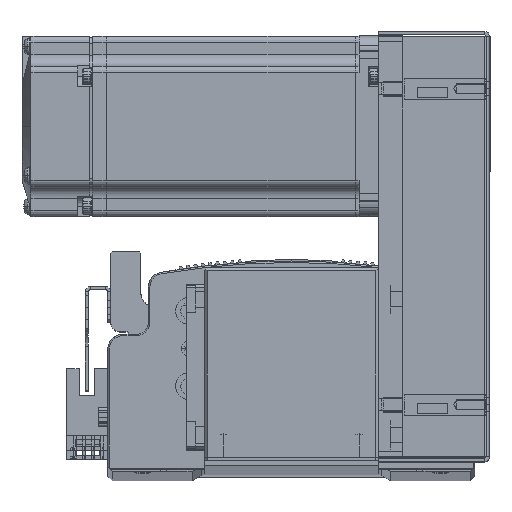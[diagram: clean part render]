
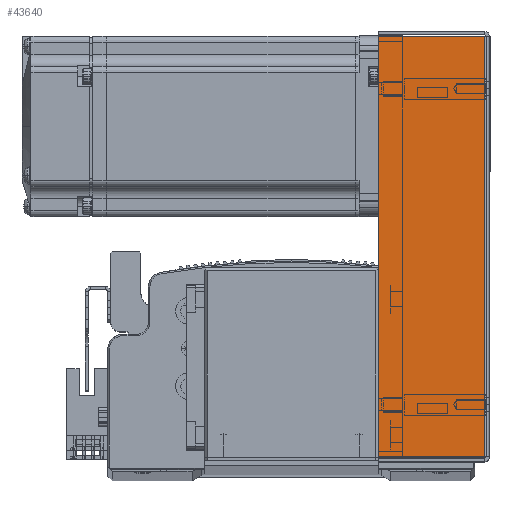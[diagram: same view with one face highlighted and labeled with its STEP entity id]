
A CAD part, top view. The second image highlights one B-rep face of the part: STEP entity #43640.
In plain terms, the highlighted planar face has unit normal (0, 0, 1) as drawn and (0, 0, -1) by its records, which use the part's own axes.
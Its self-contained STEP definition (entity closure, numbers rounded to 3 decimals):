
#2471 = CARTESIAN_POINT ( 'NONE',  ( -69.793, 0.737, -33.5 ) ) ;
#2481 = CARTESIAN_POINT ( 'NONE',  ( 69.793, 0.737, -33.5 ) ) ;
#2711 = CARTESIAN_POINT ( 'NONE',  ( 69.793, 36., -33.5 ) ) ;
#2716 = CARTESIAN_POINT ( 'NONE',  ( -69.793, 36., -33.5 ) ) ;
#11566 = EDGE_LOOP ( 'NONE', ( #59705, #59753, #59644, #59739 ) ) ;
#15777 = LINE ( 'NONE', #18129, #15792 ) ;
#15792 = VECTOR ( 'NONE', #18143, 1000. ) ;
#15806 = LINE ( 'NONE', #18065, #15828 ) ;
#15812 = VECTOR ( 'NONE', #18131, 1000. ) ;
#15822 = LINE ( 'NONE', #18153, #15812 ) ;
#15828 = VECTOR ( 'NONE', #18116, 1000. ) ;
#17570 = CARTESIAN_POINT ( 'NONE',  ( 71.5, 0.737, -33.5 ) ) ;
#17573 = DIRECTION ( 'NONE',  ( 1., 0., 0. ) ) ;
#18065 = CARTESIAN_POINT ( 'NONE',  ( 69.793, 0., -33.5 ) ) ;
#18116 = DIRECTION ( 'NONE',  ( 0., 1., 0. ) ) ;
#18129 = CARTESIAN_POINT ( 'NONE',  ( 0., 36., -33.5 ) ) ;
#18131 = DIRECTION ( 'NONE',  ( 0., 1., 0. ) ) ;
#18143 = DIRECTION ( 'NONE',  ( 1., 0., 0. ) ) ;
#18153 = CARTESIAN_POINT ( 'NONE',  ( -69.793, 0., -33.5 ) ) ;
#22024 = LINE ( 'NONE', #17570, #22053 ) ;
#22053 = VECTOR ( 'NONE', #17573, 1000. ) ;
#33471 = FACE_OUTER_BOUND ( 'NONE', #11566, .T. ) ;
#43640 = ADVANCED_FACE ( 'NONE', ( #33471 ), #51627, .F. ) ;
#48790 = AXIS2_PLACEMENT_3D ( 'NONE', #51615, #51628, #51653 ) ;
#51615 = CARTESIAN_POINT ( 'NONE',  ( 0., 0., -33.5 ) ) ;
#51627 = PLANE ( 'NONE',  #48790 ) ;
#51628 = DIRECTION ( 'NONE',  ( 0., 0., 1. ) ) ;
#51653 = DIRECTION ( 'NONE',  ( 0., -1., 0. ) ) ;
#59644 = ORIENTED_EDGE ( 'NONE', *, *, #79965, .T. ) ;
#59705 = ORIENTED_EDGE ( 'NONE', *, *, #79805, .F. ) ;
#59739 = ORIENTED_EDGE ( 'NONE', *, *, #79943, .F. ) ;
#59753 = ORIENTED_EDGE ( 'NONE', *, *, #79967, .T. ) ;
#79805 = EDGE_CURVE ( 'NONE', #92817, #92837, #22024, .T. ) ;
#79943 = EDGE_CURVE ( 'NONE', #92837, #93075, #15806, .T. ) ;
#79965 = EDGE_CURVE ( 'NONE', #92974, #93075, #15777, .T. ) ;
#79967 = EDGE_CURVE ( 'NONE', #92817, #92974, #15822, .T. ) ;
#92817 = VERTEX_POINT ( 'NONE', #2471 ) ;
#92837 = VERTEX_POINT ( 'NONE', #2481 ) ;
#92974 = VERTEX_POINT ( 'NONE', #2716 ) ;
#93075 = VERTEX_POINT ( 'NONE', #2711 ) ;
